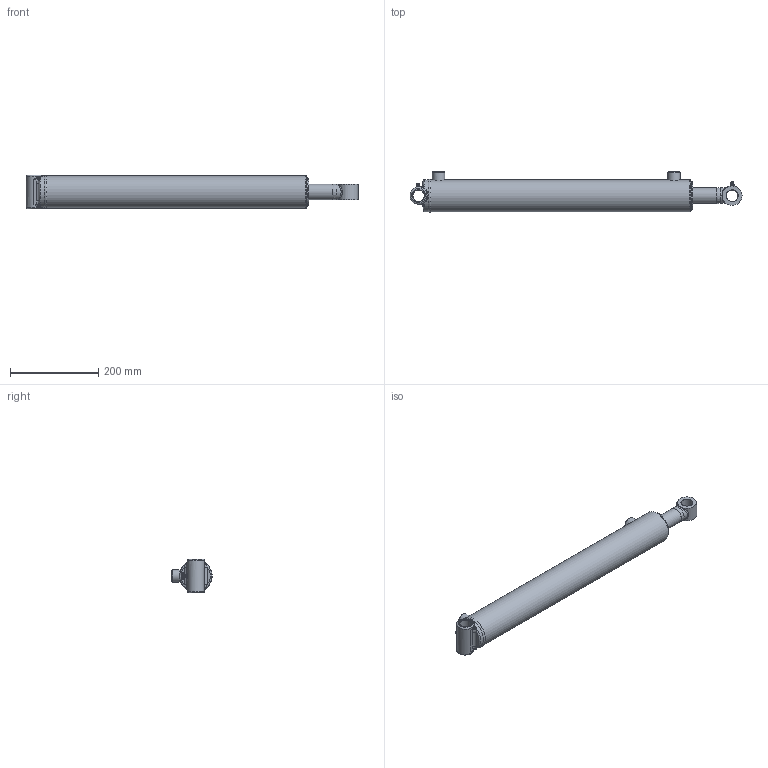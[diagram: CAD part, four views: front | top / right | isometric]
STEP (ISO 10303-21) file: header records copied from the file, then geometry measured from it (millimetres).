
FILE_DESCRIPTION(/* description */ ('Ø2.50 X 20.00 DA'),/* implementation_level */ '2;1');
FILE_NAME(/* name */ 'T:\Aces\Jobs\67f613385ba14f7eb2771ff40bca3f2a\result.stp',/* time_stamp */ '2022-10-06T14:56:52+00:00',/* author */ (''),/* organization */ ('PRINCE MANUFACTURING'),/* preprocessor_version */ 'ST-DEVELOPER v18.1',/* originating_system */ 'Autodesk Inventor 2022',/* authorisation */ '');
FILE_SCHEMA (('AUTOMOTIVE_DESIGN { 1 0 10303 214 3 1 1 }'));
Length unit declared in the file: inch
Products named in the file (21): PC2520013A00-280XYXA; 0613-XYSF000-23237; 0513-T-23237; 161300230; 200015602; 06Weld1_C360; 0713-P-075; 220000208; 0813-G-138; 230025103; 230025003; 240000018; 240061330; 240000330; 0207A-FAW0-26250XA; 0107A-FAW0-26250; 210400812; 02Weld_C360; 240037106; 250014137; 270010020
Assembly tree (22 placements, depth 3):
  PC2520013A00-280XYXA
    0613-XYSF000-23237
      0513-T-23237
      161300230
      200015602  x2
      06Weld1_C360
    0713-P-075
    220000208
    0813-G-138
    230025103
    230025003
    240000018
    240061330
    240000330
    0207A-FAW0-26250XA
      0107A-FAW0-26250
      210400812
      02Weld_C360
    240037106
    250014137
    270010020  x2
Bounding box: 752.91 x 91.34 x 76.2 mm (x, y, z)
Volume: 1527505 mm3; surface area: 444924.9 mm2
Topology: 25 solids, 25 shells, 554 faces, 1338 edges, 857 vertices
Faces by surface type: bspline 155, plane 140, torus 86, cone 86, cylinder 83, sphere 4
Full cylindrical faces by diameter (mm): 2.143 x4, 3.175 x1, 5.359 x2, 6.35 x2, 9.525 x2, 12.649 x1, 12.7 x1, 12.725 x1, 17.323 x3, 18.999 x1, 19.126 x1, 21.615 x1, 25.781 x2, 28.575 x2, 34.925 x1, 35.001 x2, 35.56 x2, 36.957 x1, 40.64 x1, 41.3 x1, 44.45 x1, 46.101 x2, 47.625 x2, 50.8 x2, 54.077 x2, 54.813 x2, 59.931 x2, 60.071 x1, 60.096 x4, 62.886 x2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
Entity records: 32488 total; most frequent: CARTESIAN_POINT 20016, ORIENTED_EDGE 2458, DIRECTION 2131, EDGE_CURVE 1229, AXIS2_PLACEMENT_3D 894, VERTEX_POINT 796, EDGE_LOOP 589, FACE_OUTER_BOUND 510
